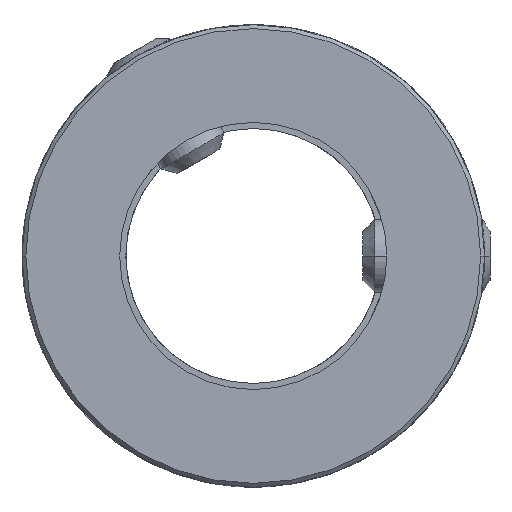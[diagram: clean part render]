
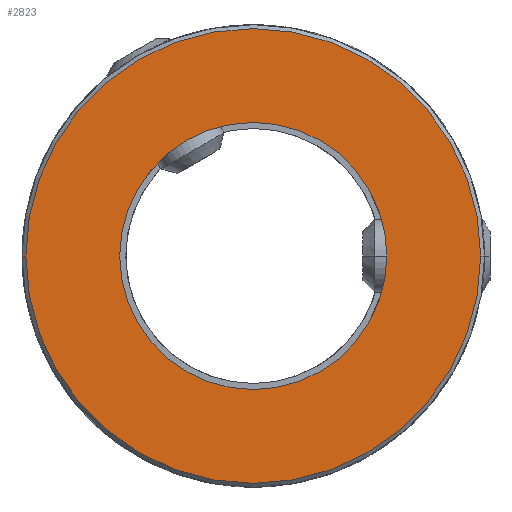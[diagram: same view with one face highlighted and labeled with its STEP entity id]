
A CAD part, front view. The second image highlights one B-rep face of the part: STEP entity #2823.
In plain terms, the highlighted planar face has unit normal (0, -1, 0).
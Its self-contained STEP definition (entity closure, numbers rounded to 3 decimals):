
#1=CARTESIAN_POINT('',(0.,-33.35,
0.));
#2=DIRECTION('',(0.,-1.,0.));
#3=DIRECTION('',(-1.,0.,0.));
#4=AXIS2_PLACEMENT_3D('',#1,#2,#3);
#6=CARTESIAN_POINT('',(0.,-33.35,
0.));
#7=DIRECTION('',(0.,-1.,0.));
#8=DIRECTION('',(1.,0.,0.));
#9=AXIS2_PLACEMENT_3D('',#6,#7,#8);
#11=CARTESIAN_POINT('',(0.,-33.35,0.));
#12=DIRECTION('',(0.,1.,0.));
#13=DIRECTION('',(1.,0.,0.));
#14=AXIS2_PLACEMENT_3D('',#11,#12,#13);
#16=CARTESIAN_POINT('',(0.,-33.35,0.));
#17=DIRECTION('',(0.,1.,0.));
#18=DIRECTION('',(-1.,0.,0.));
#19=AXIS2_PLACEMENT_3D('',#16,#17,#18);
#2591=CARTESIAN_POINT('',(11.,-33.35,0.));
#2592=CARTESIAN_POINT('',(-11.,-33.35,0.));
#2593=VERTEX_POINT('',#2591);
#2594=VERTEX_POINT('',#2592);
#2611=CARTESIAN_POINT('',(-18.73,-33.35,0.));
#2612=CARTESIAN_POINT('',(18.73,-33.35,0.));
#2613=VERTEX_POINT('',#2611);
#2614=VERTEX_POINT('',#2612);
#2806=CARTESIAN_POINT('',(0.,-33.35,0.));
#2807=DIRECTION('',(0.,1.,0.));
#2808=DIRECTION('',(1.,0.,0.));
#2809=AXIS2_PLACEMENT_3D('',#2806,#2807,#2808);
#2810=PLANE('',#2809);
#2812=ORIENTED_EDGE('',*,*,#2811,.F.);
#2814=ORIENTED_EDGE('',*,*,#2813,.F.);
#2815=EDGE_LOOP('',(#2812,#2814));
#2816=FACE_OUTER_BOUND('',#2815,.F.);
#2818=ORIENTED_EDGE('',*,*,#2817,.F.);
#2820=ORIENTED_EDGE('',*,*,#2819,.F.);
#2821=EDGE_LOOP('',(#2818,#2820));
#2822=FACE_BOUND('',#2821,.F.);
#2823=ADVANCED_FACE('',(#2816,#2822),#2810,.F.);
#5=CIRCLE('',#4,18.73);
#10=CIRCLE('',#9,18.73);
#15=CIRCLE('',#14,11.);
#20=CIRCLE('',#19,11.);
#2811=EDGE_CURVE('',#2613,#2614,#5,.T.);
#2813=EDGE_CURVE('',#2614,#2613,#10,.T.);
#2817=EDGE_CURVE('',#2593,#2594,#15,.T.);
#2819=EDGE_CURVE('',#2594,#2593,#20,.T.);
